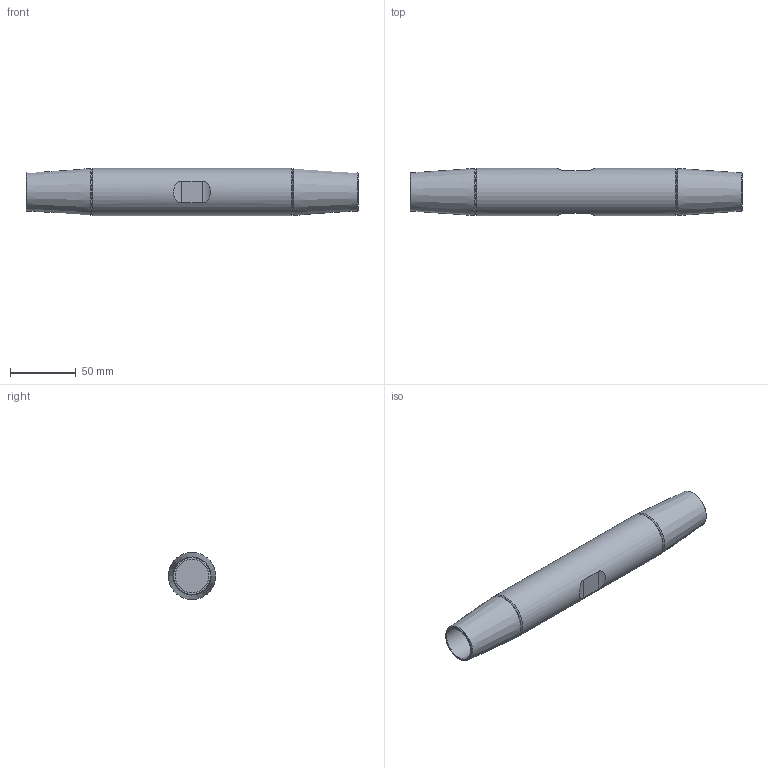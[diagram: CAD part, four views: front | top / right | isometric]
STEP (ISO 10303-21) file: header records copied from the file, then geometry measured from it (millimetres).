
FILE_DESCRIPTION(/* description */ (''),/* implementation_level */ '2;1');
FILE_NAME(/* name */ 'G:\Engineering\700 CAD\Internet-PX-1-step-igs-dxf\520-MUF-Arbeitsdateien\520-024-MUF.stp',/* time_stamp */ '2020-06-30T13:13:22+02:00',/* author */ ('schwarz'),/* organization */ (''),/* preprocessor_version */ 'ST-DEVELOPER v16.1',/* originating_system */ 'Autodesk Inventor 2016',/* authorisation */ '');
FILE_SCHEMA (('AUTOMOTIVE_DESIGN { 1 0 10303 214 3 1 1 }'));
Length unit declared in the file: centimetre
Products named in the file (1): Zusammenbau Muffe 520 024 Kunde
Bounding box: 253 x 36 x 36 mm (x, y, z)
Volume: 198937.8 mm3; surface area: 35046.3 mm2
Topology: 1 solids, 1 shells, 21 faces, 42 edges, 26 vertices
Faces by surface type: cone 8, cylinder 7, plane 6
Full cylindrical faces by diameter (mm): 25.5 x2, 36 x1
Entity records: 613 total; most frequent: CARTESIAN_POINT 166, DIRECTION 80, ORIENTED_EDGE 60, EDGE_LOOP 36, AXIS2_PLACEMENT_3D 36, EDGE_CURVE 30, VERTEX_POINT 26, STYLED_ITEM 22
